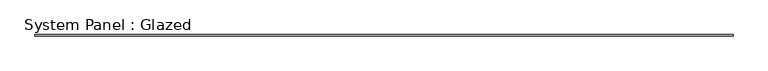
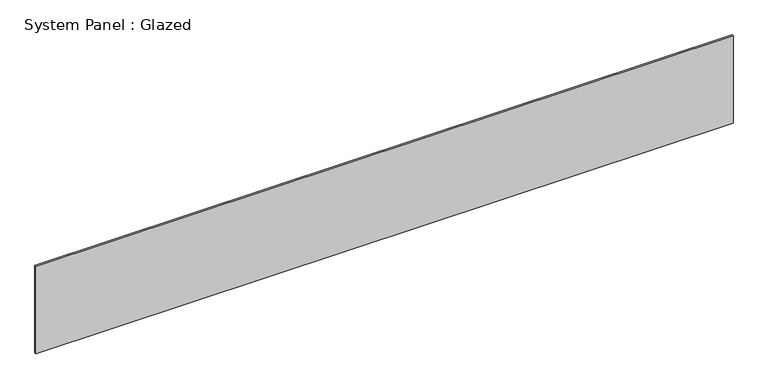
"""IFC4 building model written with IfcOpenShell, lengths in millimetres: plate geometry, System Panel : Glazed."""

from ifc_helpers import new_model, si_unit, origin, origin_with_axes, place, context, project, spatial, polyline, outline, extrude, source, transform, mapped, element, save


def system_panel_glazed_1a993f0c(model_context):
    return source(origin(), model_context, "Body", "SweptSolid", [
        extrude(outline(polyline([(6000.0, -12.5), (-6000.0, -12.5), (-6000.0, 12.5), (6000.0, 12.5), (6000.0, -12.5)])), origin_with_axes(), (0.0, 0.0, 1.0), 1594.7004059),
    ])


if __name__ == "__main__":
    model = new_model("IFC4")
    model_context = context("Model", 3, world=origin())
    ifc_project = project(units=[si_unit("LENGTHUNIT", "METRE", prefix="MILLI")], contexts=[model_context])
    site = spatial("IfcSite", under=ifc_project)
    building = spatial("IfcBuilding", under=site)
    placement = place(None, origin())
    system_panel_glazed_shape = system_panel_glazed_1a993f0c(model_context)
    element("IfcPlate", 1, ObjectType="System Panel : Glazed", at=placement, inside=building, context=model_context, shape_type="MappedRepresentation", body=[
        mapped(system_panel_glazed_shape, transform((0.0, 0.0, 0.0), x_axis=(1.0, 0.0, 0.0), y_axis=(0.0, 1.0, 0.0), z_axis=(0.0, 0.0, 1.0))),
    ])
    save(model, "model.ifc")
